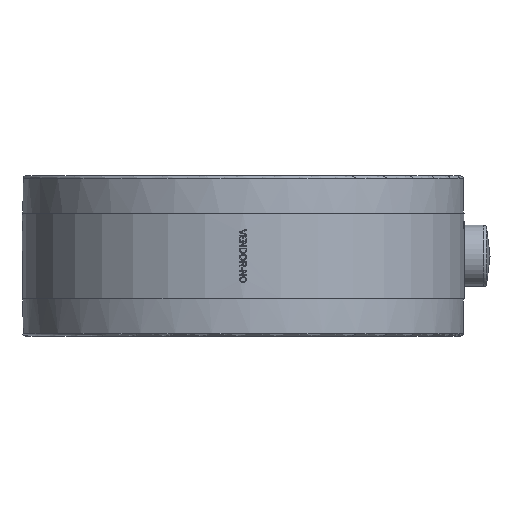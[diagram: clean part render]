
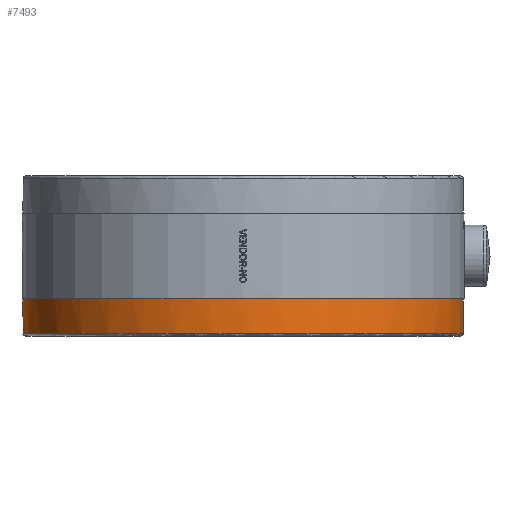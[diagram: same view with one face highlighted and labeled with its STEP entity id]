
A CAD part, front view. The second image highlights one B-rep face of the part: STEP entity #7493.
In plain terms, the highlighted cylindrical face has radius 82.5 mm (diameter 165 mm), a full revolution.
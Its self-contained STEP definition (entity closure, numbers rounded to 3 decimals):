
#5089=CYLINDRICAL_SURFACE('',#20926,82.5);
#5419=ELLIPSE('',#20923,116.673,82.5);
#5420=ELLIPSE('',#20925,116.673,82.5);
#5483=LINE('',#28219,#6471);
#5484=LINE('',#28227,#6472);
#6471=VECTOR('',#22860,1.);
#6472=VECTOR('',#22867,1.);
#7493=ADVANCED_FACE('',(#9580,#9581),#5089,.T.);
#9580=FACE_BOUND('',#10061,.T.);
#9581=FACE_BOUND('',#10062,.T.);
#10061=EDGE_LOOP('',(#11443));
#10062=EDGE_LOOP('',(#11444,#11445,#11446,#11447,#11448,#11449));
#11443=ORIENTED_EDGE('',*,*,#17793,.T.);
#11444=ORIENTED_EDGE('',*,*,#17794,.T.);
#11445=ORIENTED_EDGE('',*,*,#17795,.T.);
#11446=ORIENTED_EDGE('',*,*,#17796,.T.);
#11447=ORIENTED_EDGE('',*,*,#17797,.F.);
#11448=ORIENTED_EDGE('',*,*,#17798,.T.);
#11449=ORIENTED_EDGE('',*,*,#17799,.T.);
#16189=VERTEX_POINT('',#28215);
#16190=VERTEX_POINT('',#28217);
#16191=VERTEX_POINT('',#28218);
#16192=VERTEX_POINT('',#28220);
#16193=VERTEX_POINT('',#28222);
#16194=VERTEX_POINT('',#28224);
#16195=VERTEX_POINT('',#28226);
#17793=EDGE_CURVE('',#16189,#16189,#20096,.T.);
#17794=EDGE_CURVE('',#16190,#16191,#20097,.T.);
#17795=EDGE_CURVE('',#16191,#16192,#5483,.T.);
#17796=EDGE_CURVE('',#16192,#16193,#5419,.T.);
#17797=EDGE_CURVE('',#16194,#16193,#20098,.T.);
#17798=EDGE_CURVE('',#16194,#16195,#5420,.T.);
#17799=EDGE_CURVE('',#16195,#16190,#5484,.T.);
#20096=CIRCLE('',#20921,82.5);
#20097=CIRCLE('',#20922,82.5);
#20098=CIRCLE('',#20924,82.5);
#20921=AXIS2_PLACEMENT_3D('',#28214,#22856,#22857);
#20922=AXIS2_PLACEMENT_3D('',#28216,#22858,#22859);
#20923=AXIS2_PLACEMENT_3D('',#28221,#22861,#22862);
#20924=AXIS2_PLACEMENT_3D('',#28223,#22863,#22864);
#20925=AXIS2_PLACEMENT_3D('',#28225,#22865,#22866);
#20926=AXIS2_PLACEMENT_3D('',#28228,#22868,#22869);
#22856=DIRECTION('',(0.,0.,1.));
#22857=DIRECTION('',(1.,0.,0.));
#22858=DIRECTION('',(0.,0.,-1.));
#22859=DIRECTION('',(-1.,0.,0.));
#22860=DIRECTION('',(0.,0.,1.));
#22861=DIRECTION('',(0.,0.707,-0.707));
#22862=DIRECTION('',(0.,-0.707,-0.707));
#22863=DIRECTION('',(0.,0.,1.));
#22864=DIRECTION('',(1.,0.,0.));
#22865=DIRECTION('',(0.,0.707,-0.707));
#22866=DIRECTION('',(0.,-0.707,-0.707));
#22867=DIRECTION('',(0.,0.,-1.));
#22868=DIRECTION('',(0.,0.,-1.));
#22869=DIRECTION('',(-1.,0.,0.));
#28214=CARTESIAN_POINT('',(0.,-203.5,-29.));
#28215=CARTESIAN_POINT('',(82.5,-203.5,-29.));
#28216=CARTESIAN_POINT('',(0.,-203.5,-16.55));
#28217=CARTESIAN_POINT('',(-20.156,-123.5,-16.55));
#28218=CARTESIAN_POINT('',(20.156,-123.5,-16.55));
#28219=CARTESIAN_POINT('',(20.156,-123.5,30.));
#28220=CARTESIAN_POINT('',(20.156,-123.5,-15.85));
#28221=CARTESIAN_POINT('',(0.,-203.5,-95.85));
#28222=CARTESIAN_POINT('',(21.123,-123.75,-16.1));
#28223=CARTESIAN_POINT('',(0.,-203.5,-16.1));
#28224=CARTESIAN_POINT('',(-21.123,-123.75,-16.1));
#28225=CARTESIAN_POINT('',(0.,-203.5,-95.85));
#28226=CARTESIAN_POINT('',(-20.156,-123.5,-15.85));
#28227=CARTESIAN_POINT('',(-20.156,-123.5,30.));
#28228=CARTESIAN_POINT('',(0.,-203.5,30.));
